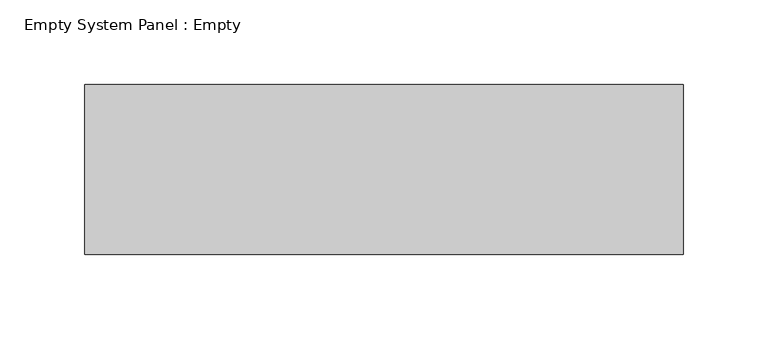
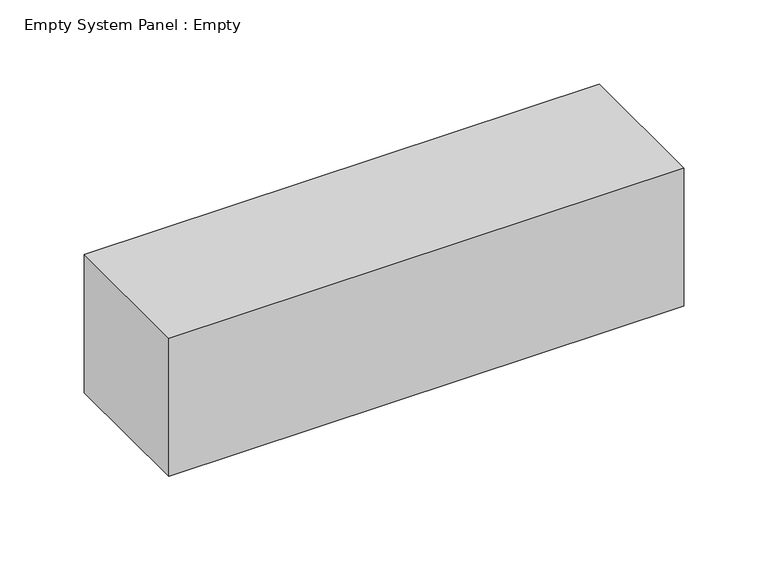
"""IFC4 building model written with IfcOpenShell, lengths in millimetres: plate geometry, Empty System Panel : Empty."""

import ifcopenshell
import ifcopenshell.guid

model = None  # the IFC model being written
_history = None  # IfcOwnerHistory: only IFC2X3 demands one
_inside = {}  # id of a spatial element -> (the spatial element, [elements in it])
_under = {}  # id of a project, library or spatial element -> (it, [spatial elements below it])
_declared = {}  # id of a project -> (the project, [libraries it declares])
_typed = {}  # id of a type object -> (the type object, [elements of that type])
_made_of = {}  # id of a material, layer set ... -> (it, [elements and type objects made of it])


def new_model(schema):
    """Start an empty IFC model of exactly this schema.

    Asked for "IFC4X3", IfcOpenShell would pick the latest addendum, in which some entities
    have other attributes; the version numbers below select the first issue.
    IFC2X3 requires an IfcOwnerHistory on every rooted entity: one is made here for all.
    """
    global model, _history
    if schema == "IFC4X3":
        model = ifcopenshell.file(schema_version=(4, 3, 0, 0))
    else:
        model = ifcopenshell.file(schema=schema)
    _inside.clear()
    _under.clear()
    _declared.clear()
    _typed.clear()
    _made_of.clear()
    _history = None
    if model.schema == "IFC2X3":
        org = make("IfcOrganization", Name="unknown")
        user = make(
            "IfcPersonAndOrganization",
            ThePerson=make("IfcPerson", FamilyName="unknown"),
            TheOrganization=org,
        )
        app = make(
            "IfcApplication",
            ApplicationDeveloper=org,
            Version="unknown",
            ApplicationFullName="unknown",
            ApplicationIdentifier="unknown",
        )
        _history = make(
            "IfcOwnerHistory",
            OwningUser=user,
            OwningApplication=app,
            ChangeAction="ADDED",
            CreationDate=0,
        )
    return model


def make(cls, **values):
    """One entity of the class cls with the attributes given. An attribute that is None is left unset."""
    return model.create_entity(
        cls, **{name: value for name, value in values.items() if value is not None}
    )


def rooted(cls, **values):
    """An entity with a GlobalId (a new one), such as an element, a storey or a relation."""
    return make(cls, GlobalId=ifcopenshell.guid.new(), OwnerHistory=_history, **values)


def si_unit(unit_type, name, prefix=None):
    """IfcSIUnit, for example si_unit("LENGTHUNIT", "METRE", prefix="MILLI")."""
    return make("IfcSIUnit", UnitType=unit_type, Prefix=prefix, Name=name)


def assignment(units):
    """IfcUnitAssignment: the units of a project."""
    return None if units is None else make("IfcUnitAssignment", Units=units)


def point(xyz):
    """IfcCartesianPoint."""
    return None if xyz is None else make("IfcCartesianPoint", Coordinates=xyz)


def direction(xyz):
    """IfcDirection."""
    return None if xyz is None else make("IfcDirection", DirectionRatios=xyz)


def frame(location, z_axis=None, x_axis=None):
    """IfcAxis2Placement3D, a coordinate frame: its origin and axes. An axis left out is left unset."""
    return make(
        "IfcAxis2Placement3D",
        Location=point(location),
        Axis=direction(z_axis),
        RefDirection=direction(x_axis),
    )


def origin():
    """The frame at (0, 0, 0) with its axes left unset."""
    return frame((0.0, 0.0, 0.0))


def origin_with_axes():
    """The frame at (0, 0, 0) with the z axis (0, 0, 1) and the x axis (1, 0, 0) written out."""
    return frame((0.0, 0.0, 0.0), z_axis=(0.0, 0.0, 1.0), x_axis=(1.0, 0.0, 0.0))


def place(relative_to, where):
    """IfcLocalPlacement: puts the frame where relative to a parent placement (None: the world)."""
    return make(
        "IfcLocalPlacement", PlacementRelTo=relative_to, RelativePlacement=where
    )


def context(
    kind, dimensions, precision=None, world=None, true_north=None, identifier=None
):
    """IfcGeometricRepresentationContext, for example the 3D "Model" context."""
    return make(
        "IfcGeometricRepresentationContext",
        ContextIdentifier=identifier,
        ContextType=kind,
        CoordinateSpaceDimension=dimensions,
        Precision=precision,
        WorldCoordinateSystem=world,
        TrueNorth=true_north,
    )


def project(units=None, contexts=None):
    """IfcProject with its units and contexts."""
    return rooted(
        "IfcProject",
        Name="project",
        RepresentationContexts=contexts,
        UnitsInContext=assignment(units),
    )


def spatial(cls, under=None, at=None, **own):
    """A site, building, storey or space (cls), placed at a placement, below another one or the project."""
    s = rooted(cls, ObjectPlacement=at, **own)
    if under is not None:
        _under.setdefault(under.id(), (under, []))[1].append(s)
    return s


def polyline(points):
    """IfcPolyline through the points."""
    return make("IfcPolyline", Points=[point(p) for p in points])


def outline(outer, holes=None, kind="AREA"):
    """IfcArbitraryClosedProfileDef: a profile drawn as a closed curve; with holes, ...WithVoids."""
    if holes is None:
        return make("IfcArbitraryClosedProfileDef", ProfileType=kind, OuterCurve=outer)
    return make(
        "IfcArbitraryProfileDefWithVoids",
        ProfileType=kind,
        OuterCurve=outer,
        InnerCurves=holes,
    )


def extrude(swept, where, along, depth):
    """IfcExtrudedAreaSolid: the profile swept, set in the frame where, extruded along a direction by depth."""
    return make(
        "IfcExtrudedAreaSolid",
        SweptArea=swept,
        Position=where,
        ExtrudedDirection=direction(along),
        Depth=depth,
    )


def shape(context_of_items, identifier, shape_type, items):
    """IfcShapeRepresentation: the items that make up one representation, for example the "Body"."""
    return make(
        "IfcShapeRepresentation",
        ContextOfItems=context_of_items,
        RepresentationIdentifier=identifier,
        RepresentationType=shape_type,
        Items=items,
    )


def source(mapping_origin, context_of_items, identifier, shape_type, items):
    """IfcRepresentationMap: a shape defined once, which mapped items show again and again."""
    return make(
        "IfcRepresentationMap",
        MappingOrigin=mapping_origin,
        MappedRepresentation=shape(context_of_items, identifier, shape_type, items),
    )


def transform(
    local_origin,
    x_axis=None,
    y_axis=None,
    z_axis=None,
    scale=None,
    scale2=None,
    scale3=None,
    uniform=True,
):
    """IfcCartesianTransformationOperator3D, or its non-uniform kind. x_axis, y_axis, z_axis: its Axis1, 2, 3."""
    if uniform:
        return make(
            "IfcCartesianTransformationOperator3D",
            Axis1=direction(x_axis),
            Axis2=direction(y_axis),
            LocalOrigin=point(local_origin),
            Scale=scale,
            Axis3=direction(z_axis),
        )
    return make(
        "IfcCartesianTransformationOperator3DnonUniform",
        Axis1=direction(x_axis),
        Axis2=direction(y_axis),
        LocalOrigin=point(local_origin),
        Scale=scale,
        Axis3=direction(z_axis),
        Scale2=scale2,
        Scale3=scale3,
    )


def mapped(mapping_source, mapping_target):
    """IfcMappedItem: shows the shape of a source again, moved by a transform."""
    return make(
        "IfcMappedItem", MappingSource=mapping_source, MappingTarget=mapping_target
    )


def made_of(thing, what):
    """Note that an element or type object is made of a material, layer set ...; save() writes the relation."""
    if what is not None:
        _made_of.setdefault(what.id(), (what, []))[1].append(thing)
    return thing


def element(
    cls,
    number,
    at=None,
    inside=None,
    cuts=None,
    type_object=None,
    material=None,
    context=None,
    identifier="Body",
    shape_type=None,
    held_by="IfcProductDefinitionShape",
    body=None,
    shapes=None,
    **own,
):
    """One element of the class cls, such as IfcWall. Its Tag is "e" and its number.

    at: its placement. inside: the storey or other place that contains it. cuts: it is an
    opening in that element (IfcRelVoidsElement). A single representation is given by context,
    identifier, shape_type and body (its items); several are given by shapes. held_by: the class
    of the entity that holds the representations. save() writes the other relations.
    """
    e = rooted(cls, Tag="e%d" % number, ObjectPlacement=at, **own)
    if body is not None:
        shapes = [shape(context, identifier, shape_type, body)]
    if shapes is not None:
        e.Representation = make(held_by, Representations=shapes)
    if inside is not None:
        _inside.setdefault(inside.id(), (inside, []))[1].append(e)
    if cuts is not None:
        rooted(
            "IfcRelVoidsElement", RelatingBuildingElement=cuts, RelatedOpeningElement=e
        )
    if type_object is not None:
        _typed.setdefault(type_object.id(), (type_object, []))[1].append(e)
    return made_of(e, material)


def aggregate(whole, parts):
    """IfcRelAggregates: a whole, such as a stair, and the parts it consists of."""
    return rooted("IfcRelAggregates", RelatingObject=whole, RelatedObjects=parts)


def save(model, path):
    """Write the relations noted so far, then the file.

    IfcRelAggregates (storeys below a building ...), IfcRelContainedInSpatialStructure (elements
    in a storey), IfcRelDefinesByType, IfcRelAssociatesMaterial and IfcRelDeclares: one each for
    every whole, place, type object, material and project.
    """
    for whole, parts in _under.values():
        aggregate(whole, parts)
    for where, things in _inside.values():
        rooted(
            "IfcRelContainedInSpatialStructure",
            RelatedElements=things,
            RelatingStructure=where,
        )
    for kind, things in _typed.values():
        rooted("IfcRelDefinesByType", RelatedObjects=things, RelatingType=kind)
    for what, things in _made_of.values():
        rooted("IfcRelAssociatesMaterial", RelatedObjects=things, RelatingMaterial=what)
    for by, libraries in _declared.values():
        rooted("IfcRelDeclares", RelatingContext=by, RelatedDefinitions=libraries)
    model.write(path)


def empty_system_panel_empty_4003d573(model_context):
    return source(origin(), model_context, "Body", "SweptSolid", [
        extrude(outline(polyline([(176.25, -50.0), (-176.25, -50.0), (-176.25, 50.0), (176.25, 50.0), (176.25, -50.0)])), origin_with_axes(), (0.0, 0.0, 1.0), 100.0),
    ])


if __name__ == "__main__":
    model = new_model("IFC4")
    model_context = context("Model", 3, world=origin())
    ifc_project = project(units=[si_unit("LENGTHUNIT", "METRE", prefix="MILLI")], contexts=[model_context])
    site = spatial("IfcSite", under=ifc_project)
    building = spatial("IfcBuilding", under=site)
    placement = place(None, origin())
    empty_system_panel_empty_shape = empty_system_panel_empty_4003d573(model_context)
    element("IfcPlate", 1, ObjectType="Empty System Panel : Empty", at=placement, inside=building, context=model_context, shape_type="MappedRepresentation", body=[
        mapped(empty_system_panel_empty_shape, transform((0.0, 0.0, 0.0), x_axis=(1.0, 0.0, 0.0), y_axis=(0.0, 1.0, 0.0), z_axis=(0.0, 0.0, 1.0))),
    ])
    save(model, "model.ifc")
